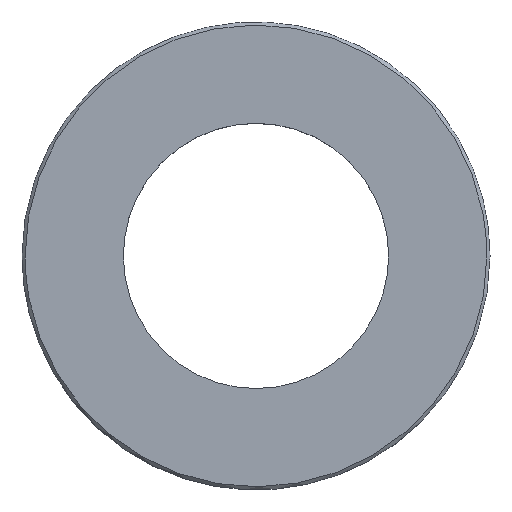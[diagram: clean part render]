
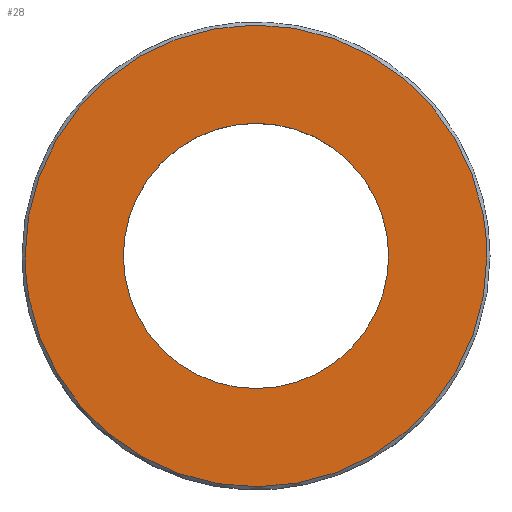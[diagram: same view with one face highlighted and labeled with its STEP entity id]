
A CAD part, top view. The second image highlights one B-rep face of the part: STEP entity #28.
In plain terms, the highlighted planar face has unit normal (0, 0, 1).
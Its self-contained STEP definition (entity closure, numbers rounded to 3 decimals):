
#25=FACE_BOUND('',#50,.T.);
#28=ADVANCED_FACE('',(#38,#25),#155,.T.);
#38=FACE_OUTER_BOUND('',#49,.T.);
#49=EDGE_LOOP('',(#66,#67));
#50=EDGE_LOOP('',(#68,#69));
#66=ORIENTED_EDGE('',*,*,#112,.F.);
#67=ORIENTED_EDGE('',*,*,#104,.F.);
#68=ORIENTED_EDGE('',*,*,#114,.F.);
#69=ORIENTED_EDGE('',*,*,#99,.F.);
#99=EDGE_CURVE('',#139,#147,#127,.T.);
#104=EDGE_CURVE('',#141,#146,#119,.T.);
#112=EDGE_CURVE('',#146,#141,#123,.T.);
#114=EDGE_CURVE('',#147,#139,#136,.T.);
#119=B_SPLINE_CURVE_WITH_KNOTS('',3,(#447,#448,#449,#450,#451,#452,#453,
#454,#455,#456,#457,#458,#459,#460,#461,#462,#463,#464,#465),
 .UNSPECIFIED.,.F.,.F.,(4,1,1,1,1,1,1,1,1,1,1,1,1,1,1,1,4),(0.,2.708,
5.579,8.57,11.624,14.678,17.669,
20.54,23.248,25.956,28.827,31.817,
34.872,37.926,40.917,43.787,46.495),
 .UNSPECIFIED.);
#123=B_SPLINE_CURVE_WITH_KNOTS('',3,(#513,#514,#515,#516,#517,#518,#519,
#520,#521,#522,#523,#524,#525,#526,#527,#528,#529,#530,#531),
 .UNSPECIFIED.,.F.,.F.,(4,1,1,1,1,1,1,1,1,1,1,1,1,1,1,1,4),(46.495,
49.204,52.074,55.065,58.119,61.174,
64.164,67.035,69.743,72.451,75.322,
78.313,81.367,84.421,87.412,90.283,
92.991),.UNSPECIFIED.);
#127=(
BOUNDED_CURVE()
B_SPLINE_CURVE(2,(#431,#432,#433,#434,#435),.UNSPECIFIED.,.F.,.F.)
B_SPLINE_CURVE_WITH_KNOTS((3,2,3),(0.,13.352,26.704),
 .UNSPECIFIED.)
CURVE()
GEOMETRIC_REPRESENTATION_ITEM()
RATIONAL_B_SPLINE_CURVE((1.,0.707,1.,0.707,1.))
REPRESENTATION_ITEM('')
);
#136=(
BOUNDED_CURVE()
B_SPLINE_CURVE(2,(#534,#535,#536,#537,#538),.UNSPECIFIED.,.F.,.F.)
B_SPLINE_CURVE_WITH_KNOTS((3,2,3),(26.704,40.055,53.407),
 .UNSPECIFIED.)
CURVE()
GEOMETRIC_REPRESENTATION_ITEM()
RATIONAL_B_SPLINE_CURVE((1.,0.707,1.,0.707,1.))
REPRESENTATION_ITEM('')
);
#139=VERTEX_POINT('',#415);
#141=VERTEX_POINT('',#417);
#146=VERTEX_POINT('',#422);
#147=VERTEX_POINT('',#423);
#155=PLANE('',#181);
#181=AXIS2_PLACEMENT_3D('',#201,#186,$);
#186=DIRECTION('',(0.,0.,1.));
#201=CARTESIAN_POINT('',(18.75,-18.75,-23.));
#415=CARTESIAN_POINT('',(8.5,0.,-23.));
#417=CARTESIAN_POINT('',(14.8,0.,-23.));
#422=CARTESIAN_POINT('',(-14.8,0.,-23.));
#423=CARTESIAN_POINT('',(-8.5,0.,-23.));
#431=CARTESIAN_POINT('',(8.5,0.,-23.));
#432=CARTESIAN_POINT('',(8.5,8.5,-23.));
#433=CARTESIAN_POINT('',(0.,8.5,-23.));
#434=CARTESIAN_POINT('',(-8.5,8.5,-23.));
#435=CARTESIAN_POINT('',(-8.5,0.,-23.));
#447=CARTESIAN_POINT('',(14.8,0.,-23.));
#448=CARTESIAN_POINT('',(14.8,-0.903,-23.));
#449=CARTESIAN_POINT('',(14.629,-2.762,-23.));
#450=CARTESIAN_POINT('',(13.836,-5.521,-23.));
#451=CARTESIAN_POINT('',(12.462,-8.173,-23.));
#452=CARTESIAN_POINT('',(10.54,-10.54,-23.));
#453=CARTESIAN_POINT('',(8.173,-12.462,-23.));
#454=CARTESIAN_POINT('',(5.521,-13.836,-23.));
#455=CARTESIAN_POINT('',(2.762,-14.629,-23.));
#456=CARTESIAN_POINT('',(0.,-14.883,-23.));
#457=CARTESIAN_POINT('',(-2.762,-14.629,-23.));
#458=CARTESIAN_POINT('',(-5.521,-13.836,-23.));
#459=CARTESIAN_POINT('',(-8.173,-12.462,-23.));
#460=CARTESIAN_POINT('',(-10.54,-10.54,-23.));
#461=CARTESIAN_POINT('',(-12.462,-8.173,-23.));
#462=CARTESIAN_POINT('',(-13.836,-5.521,-23.));
#463=CARTESIAN_POINT('',(-14.629,-2.762,-23.));
#464=CARTESIAN_POINT('',(-14.8,-0.903,-23.));
#465=CARTESIAN_POINT('',(-14.8,0.,-23.));
#513=CARTESIAN_POINT('',(-14.8,0.,-23.));
#514=CARTESIAN_POINT('',(-14.8,0.903,-23.));
#515=CARTESIAN_POINT('',(-14.629,2.762,-23.));
#516=CARTESIAN_POINT('',(-13.836,5.521,-23.));
#517=CARTESIAN_POINT('',(-12.462,8.173,-23.));
#518=CARTESIAN_POINT('',(-10.54,10.54,-23.));
#519=CARTESIAN_POINT('',(-8.173,12.462,-23.));
#520=CARTESIAN_POINT('',(-5.521,13.836,-23.));
#521=CARTESIAN_POINT('',(-2.762,14.629,-23.));
#522=CARTESIAN_POINT('',(0.,14.883,-23.));
#523=CARTESIAN_POINT('',(2.762,14.629,-23.));
#524=CARTESIAN_POINT('',(5.521,13.836,-23.));
#525=CARTESIAN_POINT('',(8.173,12.462,-23.));
#526=CARTESIAN_POINT('',(10.54,10.54,-23.));
#527=CARTESIAN_POINT('',(12.462,8.173,-23.));
#528=CARTESIAN_POINT('',(13.836,5.521,-23.));
#529=CARTESIAN_POINT('',(14.629,2.762,-23.));
#530=CARTESIAN_POINT('',(14.8,0.903,-23.));
#531=CARTESIAN_POINT('',(14.8,0.,-23.));
#534=CARTESIAN_POINT('',(-8.5,0.,-23.));
#535=CARTESIAN_POINT('',(-8.5,-8.5,-23.));
#536=CARTESIAN_POINT('',(0.,-8.5,-23.));
#537=CARTESIAN_POINT('',(8.5,-8.5,-23.));
#538=CARTESIAN_POINT('',(8.5,0.,-23.));
